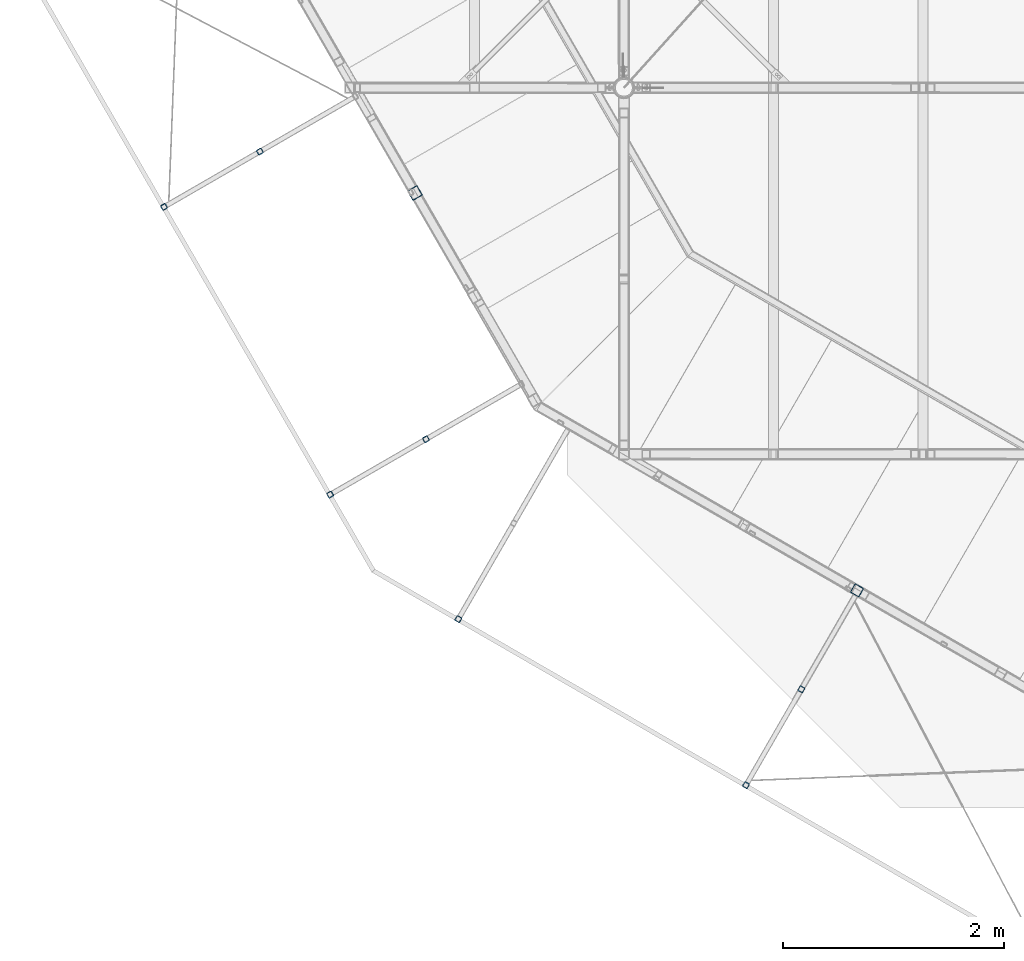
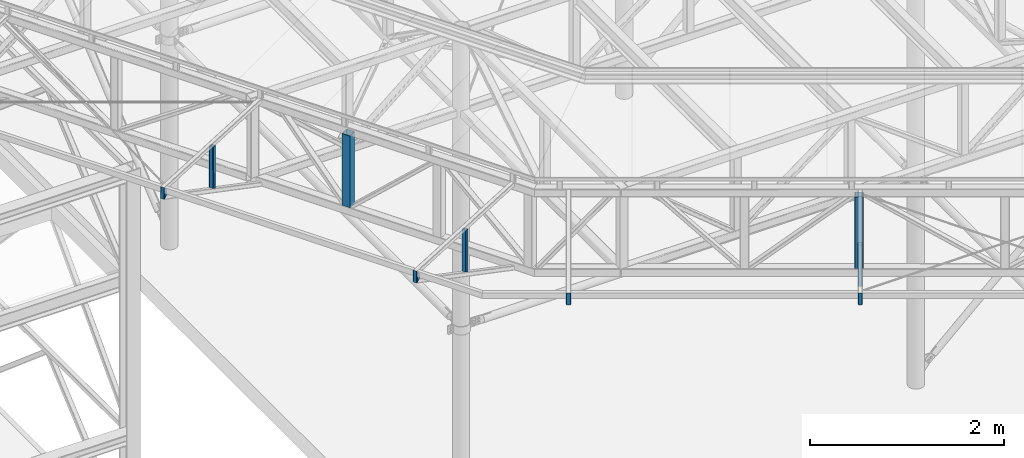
# One storey, part 61 of 132: 9 discrete accessories, 6 elements without a shape of their own.
"""IFC2X3 building model written with IfcOpenShell, lengths in millimetres."""

from ifc_helpers import new_model, si_unit, frame, origin_with_axes, origin_2d_with_axis, place, context, subcontext, project, spatial, hollow_rectangle, extrude, clip, halfspace, material, type_object, element, aggregate, save


model = new_model("IFC2X3")

# Units and contexts
model_context = context("Model", 3, precision=1e-05, world=origin_with_axes())
body_context = subcontext(model_context, "Body", "Model", "MODEL_VIEW")
ifc_project = project(units=[si_unit("LENGTHUNIT", "METRE", prefix="MILLI"), si_unit("AREAUNIT", "SQUARE_METRE"), si_unit("VOLUMEUNIT", "CUBIC_METRE"), si_unit("MASSUNIT", "GRAM", prefix="KILO"), si_unit("TIMEUNIT", "SECOND"), si_unit("PLANEANGLEUNIT", "RADIAN"), si_unit("SOLIDANGLEUNIT", "STERADIAN"), si_unit("THERMODYNAMICTEMPERATUREUNIT", "DEGREE_CELSIUS"), si_unit("LUMINOUSINTENSITYUNIT", "LUMEN")], contexts=[model_context])

# Site, building, storey
site_placement = place(None, origin_with_axes())
site = spatial("IfcSite", under=ifc_project, at=site_placement, Name="Budowa", CompositionType="ELEMENT")
building_placement = place(site_placement, origin_with_axes())
building = spatial("IfcBuilding", under=site, at=building_placement, Name="Undefined", CompositionType="ELEMENT")
storey_placement = place(building_placement, origin_with_axes())
storey = spatial("IfcBuildingStorey", under=building, at=storey_placement, Name="Undefined", CompositionType="ELEMENT", Elevation=0.0)

# Assembly, discrete accessories
assembly_1_placement = place(storey_placement, origin_with_axes())
assembly_1 = element("IfcElementAssembly", 1, at=assembly_1_placement, inside=storey, Name="Steel Assembly", AssemblyPlace="NOTDEFINED", PredefinedType="RIGID_FRAME")
ifc_material = material(Name="STEEL/S235")
discrete_accessory_type = type_object("IfcDiscreteAccessoryType", Name="BEAM")
discrete_accessory_1_placement = place(assembly_1_placement, frame((737.443970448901, 5423.71783379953, 13878.94002838), z_axis=(0.499969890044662, -0.866042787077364, 0.0), x_axis=(0.0, 0.0, -1.0)))
discrete_accessory_1 = element("IfcDiscreteAccessory", 2, at=discrete_accessory_1_placement, type_object=discrete_accessory_type, material=ifc_material, Name="BEAM", ObjectType="SHS50*4", context=body_context, shape_type="Clipping", body=[
    clip(clip(extrude(hollow_rectangle(XDim=50.0, YDim=50.0, WallThickness=4.0, InnerFilletRadius=4.0, OuterFilletRadius=8.0, at=origin_2d_with_axis()), frame((545.085010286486, 0.0, 0.0), z_axis=(-1.0, 0.0, 0.0), x_axis=(0.0, -1.0, 0.0)), (0.0, 0.0, 1.0), 559.36), halfspace(frame((536.667324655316, 11.6203888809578, 999.999999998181), z_axis=(-0.885407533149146, 0.464815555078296, 0.0), x_axis=(-0.464815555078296, -0.885407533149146, 0.0)), True)), halfspace(frame((0.185048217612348, -1.24844042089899, 999.999999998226), z_axis=(0.998752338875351, -0.0499376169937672, 0.0), x_axis=(0.0499376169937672, 0.998752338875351, 0.0)), True)),
])
discrete_accessory_2_placement = place(assembly_1_placement, frame((-128.598816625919, 4923.7479437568, 13979.9998397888), z_axis=(0.499969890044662, -0.866042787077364, 0.0), x_axis=(0.0, 0.0, -1.0)))
discrete_accessory_2 = element("IfcDiscreteAccessory", 3, at=discrete_accessory_2_placement, type_object=discrete_accessory_type, material=ifc_material, Name="BEAM", ObjectType="SHS50*4", context=body_context, shape_type="Clipping", body=[
    clip(clip(extrude(hollow_rectangle(XDim=50.0, YDim=50.0, WallThickness=4.0, InnerFilletRadius=4.0, OuterFilletRadius=8.0, at=origin_2d_with_axis()), frame((176.695154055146, 0.0, 0.0), z_axis=(-1.0, 0.0, 0.0), x_axis=(0.0, -1.0, 0.0)), (0.0, 0.0, 1.0), 192.23), halfspace(frame((149.999998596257, -25.0000000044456, 4.06544131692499e-09), z_axis=(0.855808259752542, 0.517293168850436, 0.0), x_axis=(0.0, 0.0, 1.0)), False)), halfspace(frame((-0.00517941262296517, -25.0000000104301, 1.04982973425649e-08), z_axis=(-0.689225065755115, 0.724547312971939, 0.0), x_axis=(0.0, 0.0, -1.0)), False)),
])
aggregate(assembly_1, [discrete_accessory_1, discrete_accessory_2])

assembly_2_placement = place(storey_placement, origin_with_axes())
assembly_2 = element("IfcElementAssembly", 4, at=assembly_2_placement, inside=storey, Name="Steel Assembly", AssemblyPlace="NOTDEFINED", PredefinedType="RIGID_FRAME")
discrete_accessory_3_placement = place(assembly_2_placement, frame((2237.4042470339, 2825.61868852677, 13878.94002838), z_axis=(0.499969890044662, -0.866042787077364, 0.0), x_axis=(0.0, 0.0, -1.0)))
discrete_accessory_3 = element("IfcDiscreteAccessory", 5, at=discrete_accessory_3_placement, type_object=discrete_accessory_type, material=ifc_material, Name="BEAM", ObjectType="SHS50*4", context=body_context, shape_type="Clipping", body=[
    clip(clip(extrude(hollow_rectangle(XDim=50.0, YDim=50.0, WallThickness=4.0, InnerFilletRadius=4.0, OuterFilletRadius=8.0, at=origin_2d_with_axis()), frame((545.085010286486, 0.0, 0.0), z_axis=(-1.0, 0.0, 0.0), x_axis=(0.0, -1.0, 0.0)), (0.0, 0.0, 1.0), 559.36), halfspace(frame((536.667324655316, 11.6203888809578, 999.999999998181), z_axis=(-0.885407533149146, 0.464815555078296, 0.0), x_axis=(-0.464815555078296, -0.885407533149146, 0.0)), True)), halfspace(frame((0.185048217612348, -1.24844042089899, 999.999999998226), z_axis=(0.998752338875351, -0.0499376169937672, 0.0), x_axis=(0.0499376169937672, 0.998752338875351, 0.0)), True)),
])
discrete_accessory_4_placement = place(assembly_2_placement, frame((1371.36145995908, 2325.64879848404, 13979.9998397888), z_axis=(0.499969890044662, -0.866042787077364, 0.0), x_axis=(0.0, 0.0, -1.0)))
discrete_accessory_4 = element("IfcDiscreteAccessory", 6, at=discrete_accessory_4_placement, type_object=discrete_accessory_type, material=ifc_material, Name="BEAM", ObjectType="SHS50*4", context=body_context, shape_type="Clipping", body=[
    clip(clip(extrude(hollow_rectangle(XDim=50.0, YDim=50.0, WallThickness=4.0, InnerFilletRadius=4.0, OuterFilletRadius=8.0, at=origin_2d_with_axis()), frame((176.695154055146, 0.0, 0.0), z_axis=(-1.0, 0.0, 0.0), x_axis=(0.0, -1.0, 0.0)), (0.0, 0.0, 1.0), 192.23), halfspace(frame((149.999998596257, -25.0000000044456, 4.06544131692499e-09), z_axis=(0.855808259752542, 0.517293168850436, 0.0), x_axis=(0.0, 0.0, 1.0)), False)), halfspace(frame((-0.00517941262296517, -25.0000000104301, 1.04982973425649e-08), z_axis=(-0.689225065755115, 0.724547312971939, 0.0), x_axis=(0.0, 0.0, -1.0)), False)),
])
aggregate(assembly_2, [discrete_accessory_3, discrete_accessory_4])

# Assembly, discrete accessory
assembly_3_placement = place(storey_placement, origin_with_axes())
assembly_3 = element("IfcElementAssembly", 7, at=assembly_3_placement, inside=storey, Name="Steel Assembly", AssemblyPlace="NOTDEFINED", PredefinedType="RIGID_FRAME")
discrete_accessory_5_placement = place(assembly_3_placement, frame((2529.58211910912, 1200.80323063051, 13979.9998397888), z_axis=(-0.866042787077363, 0.499969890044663, 0.0), x_axis=(0.0, 0.0, -1.0)))
discrete_accessory_5 = element("IfcDiscreteAccessory", 8, at=discrete_accessory_5_placement, type_object=discrete_accessory_type, material=ifc_material, Name="BEAM", ObjectType="SHS50*4", context=body_context, shape_type="Clipping", body=[
    clip(clip(extrude(hollow_rectangle(XDim=50.0, YDim=50.0, WallThickness=4.0, InnerFilletRadius=4.0, OuterFilletRadius=8.0, at=origin_2d_with_axis()), frame((176.695154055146, 0.0, 0.0), z_axis=(-1.0, 0.0, 0.0), x_axis=(0.0, -1.0, 0.0)), (0.0, 0.0, 1.0), 192.23), halfspace(frame((149.999998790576, 25.0, 0.0), z_axis=(0.855808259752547, -0.517293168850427, 0.0), x_axis=(0.0, 0.0, -1.0)), False)), halfspace(frame((-0.00517939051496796, 25.0, 0.0), z_axis=(-0.689225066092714, -0.724547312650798, 2.88487317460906e-10), x_axis=(0.0, 0.0, 1.0)), False)),
])
aggregate(assembly_3, [discrete_accessory_5])

# Assembly, discrete accessories
assembly_4_placement = place(storey_placement, origin_with_axes())
assembly_4 = element("IfcElementAssembly", 9, at=assembly_4_placement, inside=storey, Name="Steel Assembly", AssemblyPlace="NOTDEFINED", PredefinedType="RIGID_FRAME")
discrete_accessory_6_placement = place(assembly_4_placement, frame((5627.68037039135, 566.9363475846, 13878.94002838), z_axis=(-0.866042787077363, 0.499969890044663, 0.0), x_axis=(0.0, 0.0, -1.0)))
discrete_accessory_6 = element("IfcDiscreteAccessory", 10, at=discrete_accessory_6_placement, type_object=discrete_accessory_type, material=ifc_material, Name="BEAM", ObjectType="SHS50*4", context=body_context, shape_type="Clipping", body=[
    clip(clip(extrude(hollow_rectangle(XDim=50.0, YDim=50.0, WallThickness=4.0, InnerFilletRadius=4.0, OuterFilletRadius=8.0, at=origin_2d_with_axis()), frame((545.085010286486, 0.0, 0.0), z_axis=(-1.0, 0.0, 0.0), x_axis=(0.0, -1.0, 0.0)), (0.0, 0.0, 1.0), 559.36), halfspace(frame((536.667324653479, -11.620388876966, 1000.0), z_axis=(-0.885407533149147, -0.464815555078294, 0.0), x_axis=(0.464815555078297, -0.885407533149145, 0.0)), True)), halfspace(frame((0.185048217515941, 1.24844042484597, 1000.0), z_axis=(0.998752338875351, 0.0499376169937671, 0.0), x_axis=(-0.0499376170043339, 0.998752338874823, 2.09020387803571e-11)), True)),
])
discrete_accessory_7_placement = place(assembly_4_placement, frame((5127.71048034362, -299.10643949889, 13979.9998397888), z_axis=(-0.866042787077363, 0.499969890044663, 0.0), x_axis=(0.0, 0.0, -1.0)))
discrete_accessory_7 = element("IfcDiscreteAccessory", 11, at=discrete_accessory_7_placement, type_object=discrete_accessory_type, material=ifc_material, Name="BEAM", ObjectType="SHS50*4", context=body_context, shape_type="Clipping", body=[
    clip(clip(extrude(hollow_rectangle(XDim=50.0, YDim=50.0, WallThickness=4.0, InnerFilletRadius=4.0, OuterFilletRadius=8.0, at=origin_2d_with_axis()), frame((176.695154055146, 0.0, 0.0), z_axis=(-1.0, 0.0, 0.0), x_axis=(0.0, -1.0, 0.0)), (0.0, 0.0, 1.0), 192.23), halfspace(frame((149.999998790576, 25.0, 0.0), z_axis=(0.855808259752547, -0.517293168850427, 0.0), x_axis=(0.0, 0.0, -1.0)), False)), halfspace(frame((-0.00517939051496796, 25.0, 0.0), z_axis=(-0.689225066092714, -0.724547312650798, 2.88487317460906e-10), x_axis=(0.0, 0.0, 1.0)), False)),
])
aggregate(assembly_4, [discrete_accessory_6, discrete_accessory_7])

# Assembly, discrete accessory
assembly_5_placement = place(storey_placement, origin_with_axes())
assembly_5 = element("IfcElementAssembly", 12, at=assembly_5_placement, inside=storey, Name="Steel Assembly", AssemblyPlace="NOTDEFINED", PredefinedType="RIGID_FRAME")
discrete_accessory_8_placement = place(assembly_5_placement, frame((2137.18331358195, 5049.36880982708, 12879.9999999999), z_axis=(0.0, 0.0, 1.0), x_axis=(-0.866025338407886, -0.500000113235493, 0.0)))
discrete_accessory_8 = element("IfcDiscreteAccessory", 13, at=discrete_accessory_8_placement, type_object=discrete_accessory_type, material=ifc_material, Name="BEAM", ObjectType="SHS100*4", context=body_context, shape_type="Clipping", body=[
    clip(clip(extrude(hollow_rectangle(XDim=100.0, YDim=100.0, WallThickness=4.0, InnerFilletRadius=4.0, OuterFilletRadius=8.0, at=origin_2d_with_axis()), frame((0.0, 0.0, 900.0), z_axis=(0.0, 0.0, -1.0), x_axis=(0.0, 1.0, 0.0)), (0.0, 0.0, 1.0), 900.0), halfspace(frame((1000.0, 0.0, 900.0), z_axis=(0.0, 0.0, -1.0), x_axis=(0.0, 1.0, 0.0)), True)), halfspace(frame((1000.0, 0.0, 0.0), z_axis=(0.0, 0.0, 1.0), x_axis=(0.0, -1.0, 0.0)), True)),
])
aggregate(assembly_5, [discrete_accessory_8])

assembly_6_placement = place(storey_placement, origin_with_axes())
assembly_6 = element("IfcElementAssembly", 14, at=assembly_6_placement, inside=storey, Name="Steel Assembly", AssemblyPlace="NOTDEFINED", PredefinedType="RIGID_FRAME")
discrete_accessory_9_placement = place(assembly_6_placement, frame((6129.80718197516, 1460.71677769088, 12880.0), z_axis=(0.0, 0.0, 1.0), x_axis=(-0.499969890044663, -0.866042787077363, 0.0)))
discrete_accessory_9 = element("IfcDiscreteAccessory", 15, at=discrete_accessory_9_placement, type_object=discrete_accessory_type, material=ifc_material, Name="BEAM", ObjectType="SHS90*4", context=body_context, shape_type="Clipping", body=[
    clip(clip(extrude(hollow_rectangle(XDim=90.0, YDim=90.0, WallThickness=4.0, InnerFilletRadius=4.0, OuterFilletRadius=8.0, at=origin_2d_with_axis()), frame((0.0, 0.0, 900.0), z_axis=(0.0, 0.0, -1.0), x_axis=(0.0, 1.0, 0.0)), (0.0, 0.0, 1.0), 900.0), halfspace(frame((1000.0, 0.0, 900.0), z_axis=(0.0, 0.0, -1.0), x_axis=(0.0, 1.0, 0.0)), True)), halfspace(frame((1000.0, 0.0, 0.0), z_axis=(0.0, 0.0, 1.0), x_axis=(0.0, -1.0, 0.0)), True)),
])
aggregate(assembly_6, [discrete_accessory_9])

save(model, "model.ifc")
